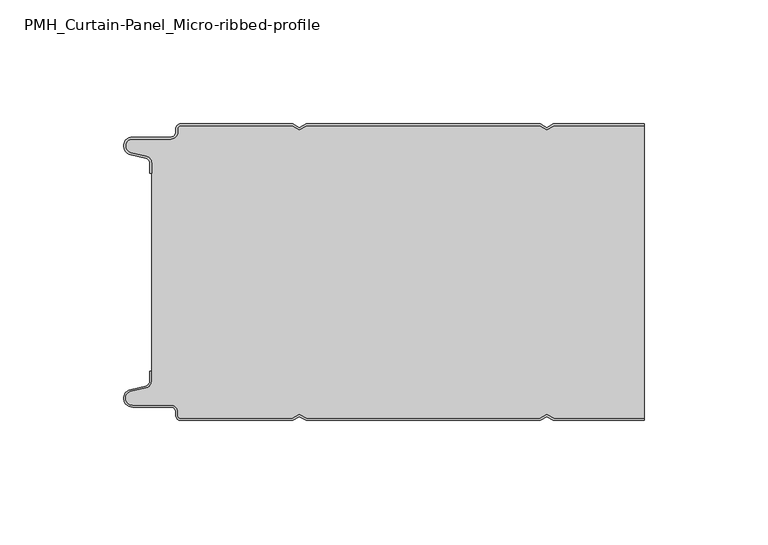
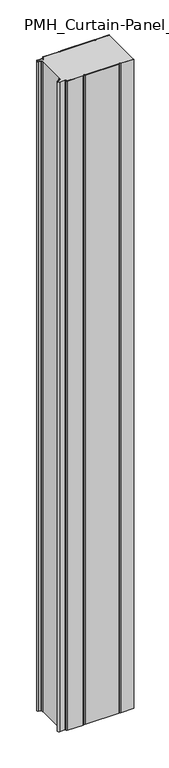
"""IFC4 building model written with IfcOpenShell, lengths in millimetres: plate geometry, PMH_Curtain-Panel_Micro-ribbed-profile : ACH_PMH_Stone-wool-Panel_120M."""

from ifc_helpers import new_model, si_unit, point, frame_2d, origin, origin_with_axes, place, context, project, spatial, polyline, circle_curve, trimmed, segment, composite_curve, outline, extrude, source, transform, mapped, element, save


def pmh_curtain_panel_micro_ribbed_profile_0eaa641f(model_context):
    return source(origin(), model_context, "Body", "SweptSolid", [
        extrude(outline(composite_curve([segment(trimmed(circle_curve(frame_2d((-102.0119739, -15.878557)), 2.0), [point((-100.0119739, -15.878557))], [point((-101.5620718, -13.9298169))], True, "CARTESIAN"), True, "CONTINUOUS"), segment(polyline([(-101.5620718, -13.9298169), (-107.7217978, -12.507732)]), True, "CONTINUOUS"), segment(trimmed(circle_curve(frame_2d((-106.9119739, -9.0)), 3.6), [point((-107.7217978, -12.507732))], [point((-106.9119739, -5.4))], False, "CARTESIAN"), True, "CONTINUOUS"), segment(polyline([(-106.9119739, -5.4), (-91.4119739, -5.4)]), True, "CONTINUOUS"), segment(trimmed(circle_curve(frame_2d((-91.4119739, -3.4)), 2.0), [point((-91.4119739, -5.4))], [point((-89.4119739, -3.4))], True, "CARTESIAN"), True, "CONTINUOUS"), segment(polyline([(-89.4119739, -3.4), (-89.4119739, -2.0)]), True, "CONTINUOUS"), segment(trimmed(circle_curve(frame_2d((-87.4119739, -2.0)), 2.0), [point((-89.4119739, -2.0))], [point((-87.4119739, 0.0))], False, "CARTESIAN"), True, "CONTINUOUS"), segment(polyline([(-87.4119739, 0.0), (-42.1119734, 0.0), (-39.4119739, -1.5588455), (-36.7119745, 0.0), (57.8880266, 0.0), (60.5880261, -1.5588455), (63.2880255, 0.0), (100.0119739, 0.0), (100.0119739, -0.8), (63.5023849, -0.8), (60.5880261, -2.482606), (57.6736672, -0.8), (-36.4976151, -0.8), (-39.4119739, -2.482606), (-42.3263328, -0.8), (-87.4119739, -0.8)]), True, "CONTINUOUS"), segment(trimmed(circle_curve(frame_2d((-87.4119739, -2.0)), 1.2), [point((-87.4119739, -0.8))], [point((-88.6119739, -2.0))], True, "CARTESIAN"), True, "CONTINUOUS"), segment(polyline([(-88.6119739, -2.0), (-88.6119739, -3.4)]), True, "CONTINUOUS"), segment(trimmed(circle_curve(frame_2d((-91.4119739, -3.4)), 2.8), [point((-88.6119739, -3.4))], [point((-91.4119739, -6.2))], False, "CARTESIAN"), True, "CONTINUOUS"), segment(polyline([(-91.4119739, -6.2), (-106.9119739, -6.2)]), True, "CONTINUOUS"), segment(trimmed(circle_curve(frame_2d((-106.9119739, -9.0)), 2.8), [point((-106.9119739, -6.2))], [point((-107.541837, -11.7282362))], True, "CARTESIAN"), True, "CONTINUOUS"), segment(polyline([(-107.541837, -11.7282362), (-101.3821109, -13.150321)]), True, "CONTINUOUS"), segment(trimmed(circle_curve(frame_2d((-102.0119739, -15.878557)), 2.8), [point((-101.3821109, -13.150321))], [point((-99.2119739, -15.878557))], False, "CARTESIAN"), True, "CONTINUOUS"), segment(polyline([(-99.2119739, -15.878557), (-99.2119739, -20.0), (-100.0119739, -20.0), (-100.0119739, -15.878557)]), True, "CONTINUOUS")], self_intersect=False)), origin_with_axes(), (0.0, 0.0, 1.0), 1945.7507136),
        extrude(outline(composite_curve([segment(polyline([(-99.2119739, -104.1214426), (-99.2119739, -15.8785573)]), True, "CONTINUOUS"), segment(trimmed(circle_curve(frame_2d((-102.0119739, -15.8785573)), 2.8), [point((-99.2119739, -15.8785573))], [point((-101.3821109, -13.1503212))], True, "CARTESIAN"), True, "CONTINUOUS"), segment(polyline([(-101.3821109, -13.1503212), (-107.541837, -11.7282362)]), True, "CONTINUOUS"), segment(trimmed(circle_curve(frame_2d((-106.911974, -9.0)), 2.8), [point((-107.541837, -11.7282362))], [point((-106.911974, -6.2))], False, "CARTESIAN"), True, "CONTINUOUS"), segment(polyline([(-106.911974, -6.2), (-91.411974, -6.2)]), True, "CONTINUOUS"), segment(trimmed(circle_curve(frame_2d((-91.411974, -3.4)), 2.8), [point((-91.411974, -6.2))], [point((-88.611974, -3.4))], True, "CARTESIAN"), True, "CONTINUOUS"), segment(polyline([(-88.611974, -3.4), (-88.611974, -2.0)]), True, "CONTINUOUS"), segment(trimmed(circle_curve(frame_2d((-87.411974, -2.0)), 1.2), [point((-88.611974, -2.0))], [point((-87.411974, -0.8))], False, "CARTESIAN"), True, "CONTINUOUS"), segment(polyline([(-87.411974, -0.8), (-42.3263329, -0.8), (-39.411974, -2.482606), (-36.4976152, -0.8), (57.6736671, -0.8), (60.588026, -2.482606), (63.5023848, -0.8), (100.0119739, -0.8), (100.0119739, -119.2), (63.5023848, -119.2), (60.588026, -117.517394), (57.6736671, -119.2), (-36.4976152, -119.2), (-39.411974, -117.517394), (-42.3263329, -119.2), (-87.411974, -119.2)]), True, "CONTINUOUS"), segment(trimmed(circle_curve(frame_2d((-87.411974, -118.0)), 1.2), [point((-87.411974, -119.2))], [point((-88.611974, -118.0))], False, "CARTESIAN"), True, "CONTINUOUS"), segment(polyline([(-88.611974, -118.0), (-88.611974, -116.6)]), True, "CONTINUOUS"), segment(trimmed(circle_curve(frame_2d((-91.411974, -116.6)), 2.8), [point((-88.611974, -116.6))], [point((-91.411974, -113.8))], True, "CARTESIAN"), True, "CONTINUOUS"), segment(polyline([(-91.411974, -113.8), (-106.911974, -113.8)]), True, "CONTINUOUS"), segment(trimmed(circle_curve(frame_2d((-106.911974, -111.0)), 2.8), [point((-106.911974, -113.8))], [point((-107.541837, -108.2717638))], False, "CARTESIAN"), True, "CONTINUOUS"), segment(polyline([(-107.541837, -108.2717638), (-101.3821109, -106.8496788)]), True, "CONTINUOUS"), segment(trimmed(circle_curve(frame_2d((-102.0119739, -104.1214426)), 2.8), [point((-101.3821109, -106.8496788))], [point((-99.2119739, -104.1214426))], True, "CARTESIAN"), True, "CONTINUOUS")], self_intersect=False)), origin_with_axes(), (0.0, 0.0, 1.0), 1945.7507136),
        extrude(outline(composite_curve([segment(polyline([(-100.0119739, -104.121443), (-100.0119739, -100.0), (-99.2119739, -100.0), (-99.2119739, -104.121443)]), True, "CONTINUOUS"), segment(trimmed(circle_curve(frame_2d((-102.0119739, -104.121443)), 2.8), [point((-99.2119739, -104.121443))], [point((-101.3821109, -106.8496792))], False, "CARTESIAN"), True, "CONTINUOUS"), segment(polyline([(-101.3821109, -106.8496792), (-107.5418369, -108.271764)]), True, "CONTINUOUS"), segment(trimmed(circle_curve(frame_2d((-106.9119739, -111.0)), 2.8), [point((-107.5418369, -108.271764))], [point((-106.9119739, -113.8))], True, "CARTESIAN"), True, "CONTINUOUS"), segment(polyline([(-106.9119739, -113.8), (-91.4119739, -113.8)]), True, "CONTINUOUS"), segment(trimmed(circle_curve(frame_2d((-91.4119739, -116.6)), 2.8), [point((-91.4119739, -113.8))], [point((-88.6119739, -116.6))], False, "CARTESIAN"), True, "CONTINUOUS"), segment(polyline([(-88.6119739, -116.6), (-88.6119739, -118.0)]), True, "CONTINUOUS"), segment(trimmed(circle_curve(frame_2d((-87.4119739, -118.0)), 1.2), [point((-88.6119739, -118.0))], [point((-87.4119739, -119.2))], True, "CARTESIAN"), True, "CONTINUOUS"), segment(polyline([(-87.4119739, -119.2), (-42.3263328, -119.2), (-39.4119739, -117.517394), (-36.4976151, -119.2), (57.6736672, -119.2), (60.5880261, -117.517394), (63.5023849, -119.2), (100.0119739, -119.2), (100.0119739, -120.0), (63.2880255, -120.0), (60.5880261, -118.4411545), (57.8880266, -120.0), (-36.7119745, -120.0), (-39.4119739, -118.4411545), (-42.1119734, -120.0), (-87.4119739, -120.0)]), True, "CONTINUOUS"), segment(trimmed(circle_curve(frame_2d((-87.4119739, -118.0)), 2.0), [point((-87.4119739, -120.0))], [point((-89.4119739, -118.0))], False, "CARTESIAN"), True, "CONTINUOUS"), segment(polyline([(-89.4119739, -118.0), (-89.4119739, -116.6)]), True, "CONTINUOUS"), segment(trimmed(circle_curve(frame_2d((-91.4119739, -116.6)), 2.0), [point((-89.4119739, -116.6))], [point((-91.4119739, -114.6))], True, "CARTESIAN"), True, "CONTINUOUS"), segment(polyline([(-91.4119739, -114.6), (-106.9119739, -114.6)]), True, "CONTINUOUS"), segment(trimmed(circle_curve(frame_2d((-106.9119739, -111.0)), 3.6), [point((-106.9119739, -114.6))], [point((-107.7217979, -107.4922678))], False, "CARTESIAN"), True, "CONTINUOUS"), segment(polyline([(-107.7217979, -107.4922678), (-101.5620718, -106.070183)]), True, "CONTINUOUS"), segment(trimmed(circle_curve(frame_2d((-102.0119739, -104.121443)), 2.0), [point((-101.5620718, -106.070183))], [point((-100.0119739, -104.121443))], True, "CARTESIAN"), True, "CONTINUOUS")], self_intersect=False)), origin_with_axes(), (0.0, 0.0, 1.0), 1945.7507136),
    ])


if __name__ == "__main__":
    model = new_model("IFC4")
    model_context = context("Model", 3, world=origin())
    ifc_project = project(units=[si_unit("LENGTHUNIT", "METRE", prefix="MILLI")], contexts=[model_context])
    site = spatial("IfcSite", under=ifc_project)
    building = spatial("IfcBuilding", under=site)
    placement = place(None, origin())
    pmh_curtain_panel_micro_ribbed_profile_shape = pmh_curtain_panel_micro_ribbed_profile_0eaa641f(model_context)
    element("IfcPlate", 1, ObjectType="PMH_Curtain-Panel_Micro-ribbed-profile : ACH_PMH_Stone-wool-Panel_120M", at=placement, inside=building, context=model_context, shape_type="MappedRepresentation", body=[
        mapped(pmh_curtain_panel_micro_ribbed_profile_shape, transform((0.0, 0.0, 0.0), x_axis=(1.0, 0.0, 0.0), y_axis=(0.0, 1.0, 0.0), z_axis=(0.0, 0.0, 1.0))),
    ])
    save(model, "model.ifc")
